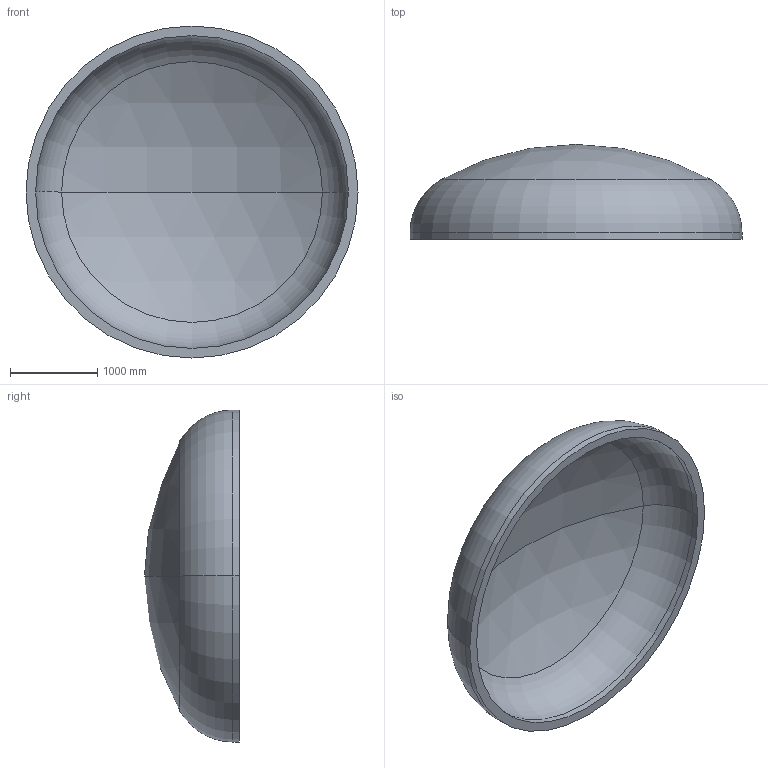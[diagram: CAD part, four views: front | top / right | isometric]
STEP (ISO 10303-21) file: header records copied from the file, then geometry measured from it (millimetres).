
FILE_DESCRIPTION (( 'STEP AP203' ), '1' );
FILE_NAME ('DIN 28013 Korbbogenform_-_Boden DIN 28013 - 3800 x 75 - I - s=110.step', '2016-07-01T21:51:46', ( '' ), ( '' ), 'SwSTEP 2.0', 'SolidWorks 2013', '' );
FILE_SCHEMA (( 'CONFIG_CONTROL_DESIGN' ));
Length unit declared in the file: millimetre
Products named in the file (1): DIN 28013 Korbbogenform_-_Boden DIN 28013 - 3800 x 75 - I - s=110
Bounding box: 3800 x 1086.08 x 3800 mm (x, y, z)
Volume: 1759156111.8 mm3; surface area: 33285160.2 mm2
Topology: 1 solids, 1 shells, 13 faces, 24 edges, 14 vertices
Faces by surface type: torus 4, cylinder 4, sphere 4, plane 1
Entity records: 407 total; most frequent: DIRECTION 72, CARTESIAN_POINT 52, ORIENTED_EDGE 48, AXIS2_PLACEMENT_3D 34, EDGE_CURVE 24, CIRCLE 20, VERTEX_POINT 14, EDGE_LOOP 14
